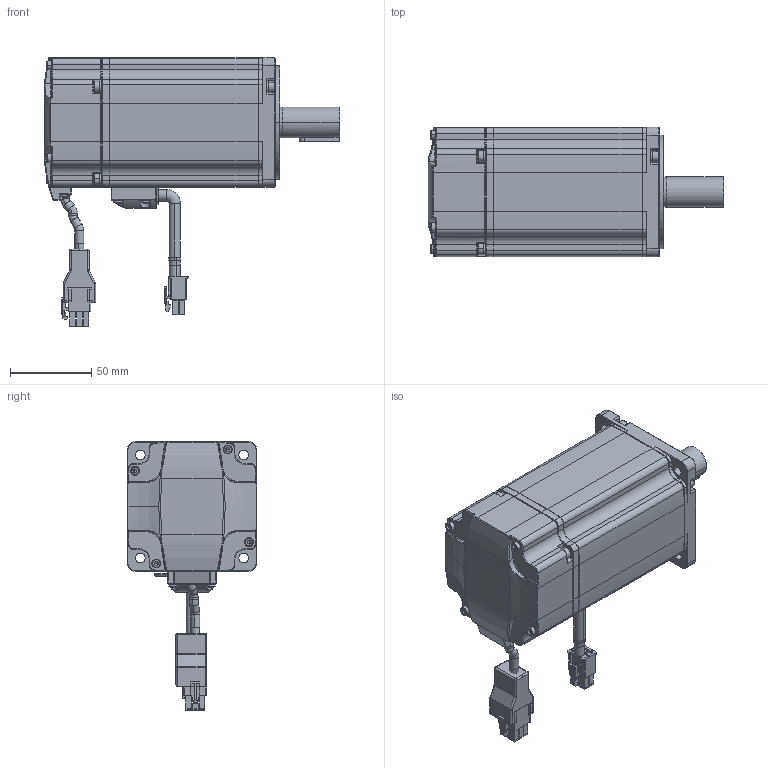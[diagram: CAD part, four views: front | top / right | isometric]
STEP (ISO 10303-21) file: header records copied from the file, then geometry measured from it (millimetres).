
FILE_DESCRIPTION (( 'STEP AP203' ), '1' );
FILE_NAME ('EM3A10A-100-A2-S（永磁交流伺服电机）.STEP', '2018-06-22T01:20:11', ( '' ), ( '' ), 'SwSTEP 2.0', 'SolidWorks 2016', '' );
FILE_SCHEMA (( 'CONFIG_CONTROL_DESIGN' ));
Length unit declared in the file: millimetre
Products named in the file (1): EM3A10A-100-A2-S（永磁交流伺服电机）
Bounding box: 182.5 x 80 x 165.77 mm (x, y, z)
Surface area: 78258.3 mm2 (no closed solid volume)
Topology: 0 solids, 60 shells, 1297 faces, 3793 edges, 2483 vertices
Faces by surface type: plane 495, cylinder 433, cone 132, torus 115, bspline 78, sphere 44
Entity records: 44473 total; most frequent: CARTESIAN_POINT 10672, DIRECTION 7298, ORIENTED_EDGE 6464, EDGE_CURVE 3758, AXIS2_PLACEMENT_3D 2646, VERTEX_POINT 2483, VECTOR 2006, LINE 2006
